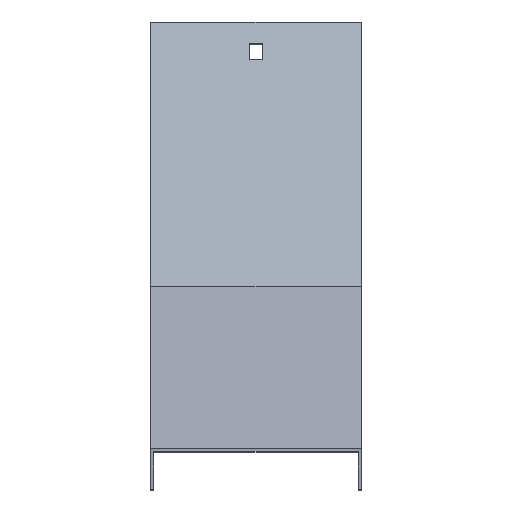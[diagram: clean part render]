
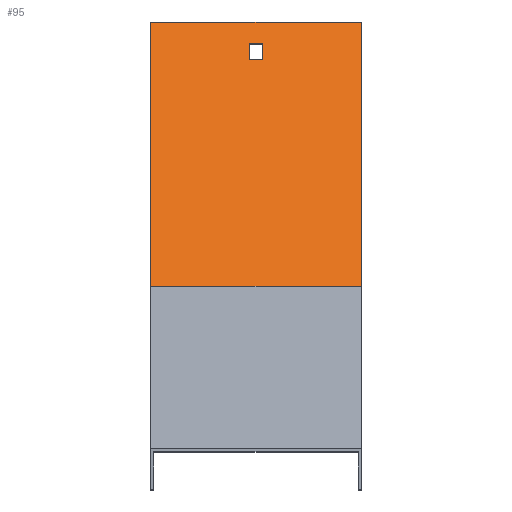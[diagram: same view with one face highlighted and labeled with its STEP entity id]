
A CAD part, top view. The second image highlights one B-rep face of the part: STEP entity #95.
In plain terms, the highlighted planar face has unit normal (0, 0.5, 0.866).
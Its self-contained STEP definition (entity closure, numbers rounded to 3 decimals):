
#16 = CARTESIAN_POINT ( 'NONE',  ( 51.5, 209.744, -363.287 ) ) ;
#68 = FACE_OUTER_BOUND ( 'NONE', #280, .T. ) ;
#76 = VECTOR ( 'NONE', #339, 1000. ) ;
#89 = ORIENTED_EDGE ( 'NONE', *, *, #340, .F. ) ;
#91 = CARTESIAN_POINT ( 'NONE',  ( -51.5, 209.744, -363.287 ) ) ;
#94 = ORIENTED_EDGE ( 'NONE', *, *, #170, .T. ) ;
#95 = ADVANCED_FACE ( 'NONE', ( #661, #68 ), #325, .T. ) ;
#125 = EDGE_CURVE ( 'NONE', #438, #174, #578, .T. ) ;
#149 = ORIENTED_EDGE ( 'NONE', *, *, #125, .F. ) ;
#161 = CARTESIAN_POINT ( 'NONE',  ( 3.25, 191.557, -352.787 ) ) ;
#170 = EDGE_CURVE ( 'NONE', #672, #174, #539, .T. ) ;
#173 = VERTEX_POINT ( 'NONE', #686 ) ;
#174 = VERTEX_POINT ( 'NONE', #91 ) ;
#211 = CARTESIAN_POINT ( 'NONE',  ( -3.25, 191.557, -352.787 ) ) ;
#215 = LINE ( 'NONE', #211, #442 ) ;
#217 = CARTESIAN_POINT ( 'NONE',  ( 51.5, 209.744, -363.287 ) ) ;
#238 = CARTESIAN_POINT ( 'NONE',  ( 51.5, 80.1, -288.437 ) ) ;
#243 = LINE ( 'NONE', #161, #626 ) ;
#245 = EDGE_CURVE ( 'NONE', #173, #672, #414, .T. ) ;
#272 = DIRECTION ( 'NONE',  ( 0., 0.5, 0.866 ) ) ;
#279 = CARTESIAN_POINT ( 'NONE',  ( 3.25, 199.352, -357.287 ) ) ;
#280 = EDGE_LOOP ( 'NONE', ( #149, #89, #586, #94 ) ) ;
#288 = CARTESIAN_POINT ( 'NONE',  ( -3.25, 191.557, -352.787 ) ) ;
#307 = DIRECTION ( 'NONE',  ( -1., 0., 0. ) ) ;
#319 = ORIENTED_EDGE ( 'NONE', *, *, #712, .F. ) ;
#322 = CARTESIAN_POINT ( 'NONE',  ( 3.25, 199.352, -357.287 ) ) ;
#325 = PLANE ( 'NONE',  #419 ) ;
#339 = DIRECTION ( 'NONE',  ( -1., 0., 0. ) ) ;
#340 = EDGE_CURVE ( 'NONE', #173, #438, #838, .T. ) ;
#341 = ORIENTED_EDGE ( 'NONE', *, *, #699, .F. ) ;
#377 = ORIENTED_EDGE ( 'NONE', *, *, #806, .F. ) ;
#392 = CARTESIAN_POINT ( 'NONE',  ( -51.5, 80.1, -288.437 ) ) ;
#414 = LINE ( 'NONE', #697, #624 ) ;
#419 = AXIS2_PLACEMENT_3D ( 'NONE', #508, #272, #729 ) ;
#431 = DIRECTION ( 'NONE',  ( 0., 0.866, -0.5 ) ) ;
#438 = VERTEX_POINT ( 'NONE', #577 ) ;
#442 = VECTOR ( 'NONE', #478, 1000. ) ;
#476 = DIRECTION ( 'NONE',  ( -1., 0., 0. ) ) ;
#478 = DIRECTION ( 'NONE',  ( 0., -0.866, 0.5 ) ) ;
#508 = CARTESIAN_POINT ( 'NONE',  ( 51.5, 80.1, -288.437 ) ) ;
#515 = EDGE_LOOP ( 'NONE', ( #377, #706, #341, #319 ) ) ;
#521 = VECTOR ( 'NONE', #476, 1000. ) ;
#539 = LINE ( 'NONE', #217, #521 ) ;
#548 = CARTESIAN_POINT ( 'NONE',  ( 3.25, 191.557, -352.787 ) ) ;
#552 = DIRECTION ( 'NONE',  ( 1., 0., 0. ) ) ;
#556 = VECTOR ( 'NONE', #552, 1000. ) ;
#577 = CARTESIAN_POINT ( 'NONE',  ( -51.5, 80.1, -288.437 ) ) ;
#578 = LINE ( 'NONE', #392, #720 ) ;
#586 = ORIENTED_EDGE ( 'NONE', *, *, #245, .T. ) ;
#614 = CARTESIAN_POINT ( 'NONE',  ( 3.25, 191.557, -352.787 ) ) ;
#615 = VERTEX_POINT ( 'NONE', #715 ) ;
#624 = VECTOR ( 'NONE', #694, 1000. ) ;
#626 = VECTOR ( 'NONE', #431, 1000. ) ;
#643 = VERTEX_POINT ( 'NONE', #322 ) ;
#655 = DIRECTION ( 'NONE',  ( 0., 0.866, -0.5 ) ) ;
#661 = FACE_BOUND ( 'NONE', #515, .T. ) ;
#668 = VERTEX_POINT ( 'NONE', #614 ) ;
#672 = VERTEX_POINT ( 'NONE', #16 ) ;
#686 = CARTESIAN_POINT ( 'NONE',  ( 51.5, 80.1, -288.437 ) ) ;
#687 = LINE ( 'NONE', #279, #76 ) ;
#694 = DIRECTION ( 'NONE',  ( 0., 0.866, -0.5 ) ) ;
#697 = CARTESIAN_POINT ( 'NONE',  ( 51.5, 80.1, -288.437 ) ) ;
#699 = EDGE_CURVE ( 'NONE', #615, #745, #215, .T. ) ;
#706 = ORIENTED_EDGE ( 'NONE', *, *, #748, .F. ) ;
#712 = EDGE_CURVE ( 'NONE', #643, #615, #687, .T. ) ;
#715 = CARTESIAN_POINT ( 'NONE',  ( -3.25, 199.352, -357.287 ) ) ;
#720 = VECTOR ( 'NONE', #655, 1000. ) ;
#729 = DIRECTION ( 'NONE',  ( 0., -0.866, 0.5 ) ) ;
#744 = LINE ( 'NONE', #548, #556 ) ;
#745 = VERTEX_POINT ( 'NONE', #288 ) ;
#748 = EDGE_CURVE ( 'NONE', #745, #668, #744, .T. ) ;
#806 = EDGE_CURVE ( 'NONE', #668, #643, #243, .T. ) ;
#838 = LINE ( 'NONE', #238, #844 ) ;
#844 = VECTOR ( 'NONE', #307, 1000. ) ;
